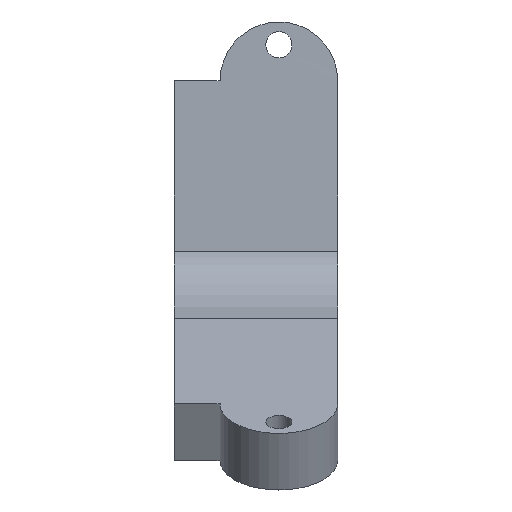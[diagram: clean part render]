
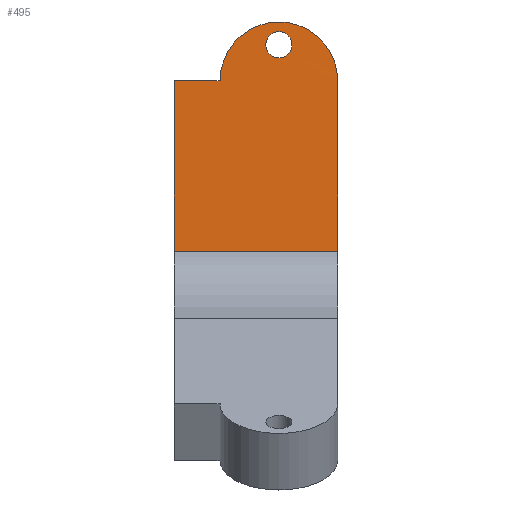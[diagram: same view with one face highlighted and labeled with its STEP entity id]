
A CAD part, left-side view. The second image highlights one B-rep face of the part: STEP entity #495.
In plain terms, the highlighted planar face has unit normal (-1, 0, 0).
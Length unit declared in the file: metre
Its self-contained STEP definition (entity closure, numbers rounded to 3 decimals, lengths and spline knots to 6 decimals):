
#23=PLANE('',#539);
#36=LINE('',#744,#69);
#37=LINE('',#746,#70);
#41=LINE('',#755,#74);
#42=LINE('',#758,#75);
#69=VECTOR('',#602,1.);
#70=VECTOR('',#605,1.);
#74=VECTOR('',#611,1.);
#75=VECTOR('',#614,1.);
#111=ORIENTED_EDGE('',*,*,#249,.F.);
#112=ORIENTED_EDGE('',*,*,#250,.T.);
#113=ORIENTED_EDGE('',*,*,#245,.F.);
#114=ORIENTED_EDGE('',*,*,#251,.T.);
#115=ORIENTED_EDGE('',*,*,#244,.T.);
#116=ORIENTED_EDGE('',*,*,#252,.F.);
#244=EDGE_CURVE('',#310,#313,#36,.T.);
#245=EDGE_CURVE('',#314,#315,#37,.T.);
#249=EDGE_CURVE('',#318,#313,#41,.T.);
#250=EDGE_CURVE('',#318,#315,#360,.T.);
#251=EDGE_CURVE('',#314,#310,#42,.T.);
#252=EDGE_CURVE('',#319,#319,#361,.T.);
#310=VERTEX_POINT('',#738);
#313=VERTEX_POINT('',#743);
#314=VERTEX_POINT('',#747);
#315=VERTEX_POINT('',#748);
#318=VERTEX_POINT('',#756);
#319=VERTEX_POINT('',#760);
#360=CIRCLE('',#540,0.009);
#361=CIRCLE('',#541,0.002);
#387=EDGE_LOOP('',(#111,#112,#113,#114,#115));
#388=EDGE_LOOP('',(#116));
#434=FACE_BOUND('',#387,.T.);
#435=FACE_BOUND('',#388,.T.);
#495=ADVANCED_FACE('',(#434,#435),#23,.T.);
#539=AXIS2_PLACEMENT_3D('',#754,#609,#610);
#540=AXIS2_PLACEMENT_3D('',#757,#612,#613);
#541=AXIS2_PLACEMENT_3D('',#759,#615,#616);
#602=DIRECTION('',(0.,-1.,0.));
#605=DIRECTION('',(0.,-1.,0.));
#609=DIRECTION('',(-1.,0.,0.));
#610=DIRECTION('',(0.,0.,1.));
#611=DIRECTION('',(0.,0.,-1.));
#612=DIRECTION('',(-1.,0.,0.));
#613=DIRECTION('',(0.,0.,-1.));
#614=DIRECTION('',(0.,0.,-1.));
#615=DIRECTION('',(-1.,0.,0.));
#616=DIRECTION('',(0.,0.,1.));
#738=CARTESIAN_POINT('',(-0.012207,-0.0319,0.016864));
#743=CARTESIAN_POINT('',(-0.012207,-0.0569,0.016864));
#744=CARTESIAN_POINT('',(-0.012207,-0.0319,0.016864));
#746=CARTESIAN_POINT('',(-0.012207,-0.0319,0.04291));
#747=CARTESIAN_POINT('',(-0.012207,-0.0319,0.04291));
#748=CARTESIAN_POINT('',(-0.012207,-0.0389,0.04291));
#754=CARTESIAN_POINT('',(-0.012207,-0.0319,0.029887));
#755=CARTESIAN_POINT('',(-0.012207,-0.0569,0.029887));
#756=CARTESIAN_POINT('',(-0.012218,-0.0569,0.04291));
#757=CARTESIAN_POINT('',(-0.012207,-0.0479,0.04291));
#758=CARTESIAN_POINT('',(-0.012207,-0.0319,0.029887));
#759=CARTESIAN_POINT('',(-0.012207,-0.0479,0.048428));
#760=CARTESIAN_POINT('',(-0.012207,-0.0479,0.050428));
